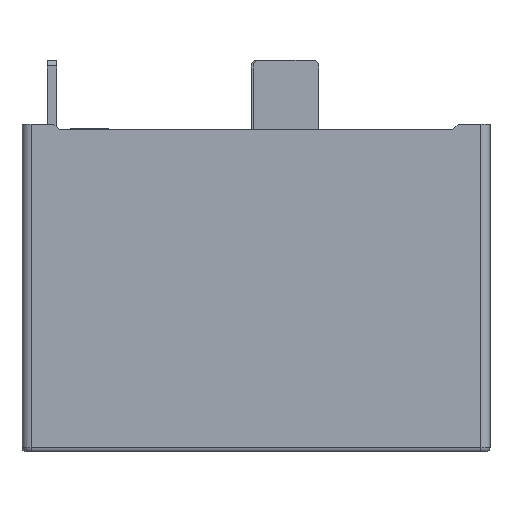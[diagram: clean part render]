
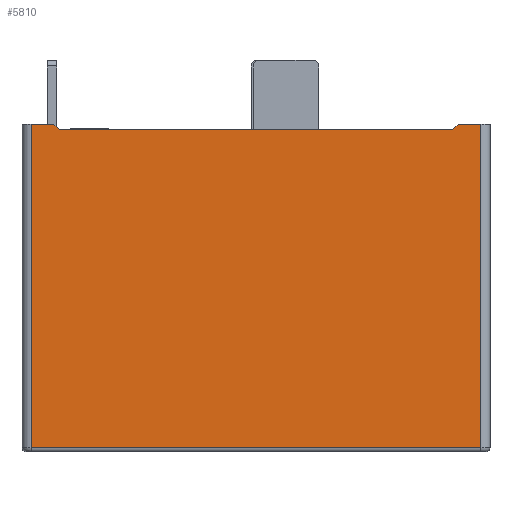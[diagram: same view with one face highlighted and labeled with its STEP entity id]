
A CAD part, front view. The second image highlights one B-rep face of the part: STEP entity #5810.
In plain terms, the highlighted planar face has unit normal (0, -1, 0).
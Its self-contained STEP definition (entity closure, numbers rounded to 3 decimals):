
#1010=DIRECTION('',(1.,0.,0.));
#1011=VECTOR('',#1010,24.);
#1012=CARTESIAN_POINT('',(-51.396,-0.114,
-32.122));
#1013=LINE('',#1012,#1011);
#1285=DIRECTION('',(0.,0.,1.));
#1286=VECTOR('',#1285,17.3);
#1287=CARTESIAN_POINT('',(-27.396,-0.114,
-32.122));
#1288=LINE('',#1287,#1286);
#1293=DIRECTION('',(-0.707,0.,0.707));
#1294=VECTOR('',#1293,0.424);
#1295=CARTESIAN_POINT('',(-49.896,-0.114,
-15.122));
#1296=LINE('',#1295,#1294);
#1297=DIRECTION('',(-0.707,0.,-0.707));
#1298=VECTOR('',#1297,0.424);
#1299=CARTESIAN_POINT('',(-28.596,-0.114,
-14.822));
#1300=LINE('',#1299,#1298);
#1305=DIRECTION('',(0.,0.,-1.));
#1306=VECTOR('',#1305,17.3);
#1307=CARTESIAN_POINT('',(-51.396,-0.114,
-14.822));
#1308=LINE('',#1307,#1306);
#1322=DIRECTION('',(1.,0.,0.));
#1323=VECTOR('',#1322,1.2);
#1324=CARTESIAN_POINT('',(-51.396,-0.114,
-14.822));
#1325=LINE('',#1324,#1323);
#1363=DIRECTION('',(1.,0.,0.));
#1364=VECTOR('',#1363,21.);
#1365=CARTESIAN_POINT('',(-49.896,-0.114,
-15.122));
#1366=LINE('',#1365,#1364);
#1388=DIRECTION('',(-1.,0.,0.));
#1389=VECTOR('',#1388,1.2);
#1390=CARTESIAN_POINT('',(-27.396,-0.114,
-14.822));
#1391=LINE('',#1390,#1389);
#3573=CARTESIAN_POINT('',(-51.396,-0.114,
-32.122));
#3574=VERTEX_POINT('',#3573);
#3577=CARTESIAN_POINT('',(-27.396,-0.114,
-32.122));
#3578=VERTEX_POINT('',#3577);
#3645=CARTESIAN_POINT('',(-27.396,-0.114,
-14.822));
#3646=VERTEX_POINT('',#3645);
#3647=CARTESIAN_POINT('',(-51.396,-0.114,
-14.822));
#3648=VERTEX_POINT('',#3647);
#3649=CARTESIAN_POINT('',(-50.196,-0.114,
-14.822));
#3650=VERTEX_POINT('',#3649);
#3651=CARTESIAN_POINT('',(-49.896,-0.114,
-15.122));
#3652=VERTEX_POINT('',#3651);
#3653=CARTESIAN_POINT('',(-28.896,-0.114,
-15.122));
#3654=VERTEX_POINT('',#3653);
#3655=CARTESIAN_POINT('',(-28.596,-0.114,
-14.822));
#3656=VERTEX_POINT('',#3655);
#5789=CARTESIAN_POINT('',(-39.396,-0.114,
-23.472));
#5790=DIRECTION('',(0.,1.,0.));
#5791=DIRECTION('',(1.,0.,0.));
#5792=AXIS2_PLACEMENT_3D('',#5789,#5790,#5791);
#5793=PLANE('',#5792);
#5794=ORIENTED_EDGE('',*,*,#5449,.F.);
#5796=ORIENTED_EDGE('',*,*,#5795,.F.);
#5798=ORIENTED_EDGE('',*,*,#5797,.T.);
#5800=ORIENTED_EDGE('',*,*,#5799,.F.);
#5802=ORIENTED_EDGE('',*,*,#5801,.T.);
#5804=ORIENTED_EDGE('',*,*,#5803,.F.);
#5806=ORIENTED_EDGE('',*,*,#5805,.F.);
#5807=ORIENTED_EDGE('',*,*,#5781,.F.);
#5808=EDGE_LOOP('',(#5794,#5796,#5798,#5800,#5802,#5804,#5806,#5807));
#5809=FACE_OUTER_BOUND('',#5808,.F.);
#5810=ADVANCED_FACE('',(#5809),#5793,.F.);
#5449=EDGE_CURVE('',#3574,#3578,#1013,.T.);
#5781=EDGE_CURVE('',#3578,#3646,#1288,.T.);
#5795=EDGE_CURVE('',#3648,#3574,#1308,.T.);
#5797=EDGE_CURVE('',#3648,#3650,#1325,.T.);
#5799=EDGE_CURVE('',#3652,#3650,#1296,.T.);
#5801=EDGE_CURVE('',#3652,#3654,#1366,.T.);
#5803=EDGE_CURVE('',#3656,#3654,#1300,.T.);
#5805=EDGE_CURVE('',#3646,#3656,#1391,.T.);
